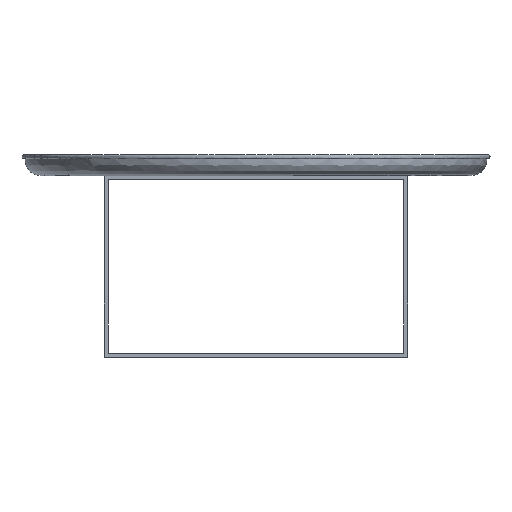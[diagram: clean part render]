
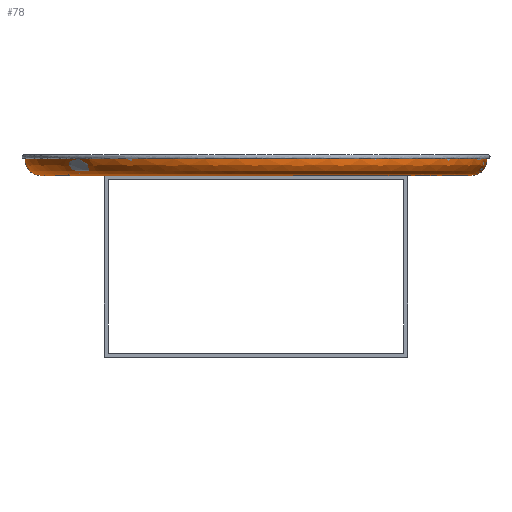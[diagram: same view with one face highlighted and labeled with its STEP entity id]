
A CAD part, front view. The second image highlights one B-rep face of the part: STEP entity #78.
In plain terms, the highlighted free-form (B-spline) face has degree [3, 2] with [10, 5] control points.
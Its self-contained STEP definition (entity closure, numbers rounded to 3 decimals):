
#11=(
BOUNDED_CURVE()
B_SPLINE_CURVE(3,(#1223,#1224,#1225,#1226,#1227,#1228,#1229,#1230,#1231,
#1232),.UNSPECIFIED.,.F.,.F.)
B_SPLINE_CURVE_WITH_KNOTS((4,3,3,4),(-540.388,-68.318,
-21.194,-19.128),.UNSPECIFIED.)
CURVE()
GEOMETRIC_REPRESENTATION_ITEM()
RATIONAL_B_SPLINE_CURVE((1.,1.,1.,1.,0.805,0.805,
1.,1.,1.,1.))
REPRESENTATION_ITEM('')
);
#15=(
BOUNDED_CURVE()
B_SPLINE_CURVE(2,(#1294,#1295,#1296,#1297,#1298),.UNSPECIFIED.,.F.,.F.)
B_SPLINE_CURVE_WITH_KNOTS((3,2,3),(475.495,713.243,950.99),
 .UNSPECIFIED.)
CURVE()
GEOMETRIC_REPRESENTATION_ITEM()
RATIONAL_B_SPLINE_CURVE((1.,0.707,1.,0.707,1.))
REPRESENTATION_ITEM('')
);
#16=(
BOUNDED_CURVE()
B_SPLINE_CURVE(3,(#1299,#1300,#1301,#1302,#1303,#1304,#1305,#1306,#1307,
#1308),.UNSPECIFIED.,.F.,.F.)
B_SPLINE_CURVE_WITH_KNOTS((4,3,3,4),(-540.388,-68.318,
-21.194,-19.128),.UNSPECIFIED.)
CURVE()
GEOMETRIC_REPRESENTATION_ITEM()
RATIONAL_B_SPLINE_CURVE((1.,1.,1.,1.,0.805,0.805,
1.,1.,1.,1.))
REPRESENTATION_ITEM('')
);
#20=(
BOUNDED_SURFACE()
B_SPLINE_SURFACE(3,2,((#1169,#1170,#1171,#1172,#1173),(#1174,#1175,#1176,
#1177,#1178),(#1179,#1180,#1181,#1182,#1183),(#1184,#1185,#1186,#1187,#1188),
(#1189,#1190,#1191,#1192,#1193),(#1194,#1195,#1196,#1197,#1198),(#1199,
#1200,#1201,#1202,#1203),(#1204,#1205,#1206,#1207,#1208),(#1209,#1210,#1211,
#1212,#1213),(#1214,#1215,#1216,#1217,#1218)),.UNSPECIFIED.,.F.,.F.,.F.)
B_SPLINE_SURFACE_WITH_KNOTS((4,3,3,4),(3,2,3),(-540.388,-68.318,
-21.194,-19.128),(475.495,713.243,
950.99),.UNSPECIFIED.)
GEOMETRIC_REPRESENTATION_ITEM()
RATIONAL_B_SPLINE_SURFACE(((1.,0.707,1.,0.707,1.),
(1.,0.707,1.,0.707,1.),(1.,0.707,1.,
0.707,1.),(1.,0.707,1.,0.707,1.),(0.805,
0.569,0.805,0.569,0.805),
(0.805,0.569,0.805,0.569,
0.805),(1.,0.707,1.,0.707,1.),(1.,0.707,
1.,0.707,1.),(1.,0.707,1.,0.707,1.),
(1.,0.707,1.,0.707,1.)))
REPRESENTATION_ITEM('')
SURFACE()
);
#78=ADVANCED_FACE('',(#118),#20,.T.);
#118=FACE_OUTER_BOUND('',#158,.T.);
#158=EDGE_LOOP('',(#312,#313,#314));
#312=ORIENTED_EDGE('',*,*,#392,.T.);
#313=ORIENTED_EDGE('',*,*,#391,.T.);
#314=ORIENTED_EDGE('',*,*,#387,.F.);
#387=EDGE_CURVE('',#505,#507,#11,.T.);
#391=EDGE_CURVE('',#508,#507,#15,.T.);
#392=EDGE_CURVE('',#505,#508,#16,.T.);
#505=VERTEX_POINT('',#1219);
#507=VERTEX_POINT('',#1221);
#508=VERTEX_POINT('',#1222);
#1169=CARTESIAN_POINT('',(4446.5,4071.01,349.8));
#1170=CARTESIAN_POINT('',(4446.5,4071.01,349.8));
#1171=CARTESIAN_POINT('',(4446.5,4071.01,349.8));
#1172=CARTESIAN_POINT('',(4446.5,4071.01,349.8));
#1173=CARTESIAN_POINT('',(4446.5,4071.01,349.8));
#1174=CARTESIAN_POINT('',(4584.667,4071.01,349.8));
#1175=CARTESIAN_POINT('',(4584.667,3932.843,349.8));
#1176=CARTESIAN_POINT('',(4446.5,3932.843,349.8));
#1177=CARTESIAN_POINT('',(4308.333,3932.843,349.8));
#1178=CARTESIAN_POINT('',(4308.333,4071.01,349.8));
#1179=CARTESIAN_POINT('',(4722.833,4071.01,349.8));
#1180=CARTESIAN_POINT('',(4722.833,3794.677,349.8));
#1181=CARTESIAN_POINT('',(4446.5,3794.677,349.8));
#1182=CARTESIAN_POINT('',(4170.167,3794.677,349.8));
#1183=CARTESIAN_POINT('',(4170.167,4071.01,349.8));
#1184=CARTESIAN_POINT('',(4861.,4071.01,349.8));
#1185=CARTESIAN_POINT('',(4861.,3656.51,349.8));
#1186=CARTESIAN_POINT('',(4446.5,3656.51,349.8));
#1187=CARTESIAN_POINT('',(4032.,3656.51,349.8));
#1188=CARTESIAN_POINT('',(4032.,4071.01,349.8));
#1189=CARTESIAN_POINT('',(4878.574,4071.01,349.8));
#1190=CARTESIAN_POINT('',(4878.574,3638.936,349.8));
#1191=CARTESIAN_POINT('',(4446.5,3638.936,349.8));
#1192=CARTESIAN_POINT('',(4014.426,3638.936,349.8));
#1193=CARTESIAN_POINT('',(4014.426,4071.01,349.8));
#1194=CARTESIAN_POINT('',(4891.,4071.01,362.226));
#1195=CARTESIAN_POINT('',(4891.,3626.51,362.226));
#1196=CARTESIAN_POINT('',(4446.5,3626.51,362.226));
#1197=CARTESIAN_POINT('',(4002.,3626.51,362.226));
#1198=CARTESIAN_POINT('',(4002.,4071.01,362.226));
#1199=CARTESIAN_POINT('',(4891.,4071.01,379.8));
#1200=CARTESIAN_POINT('',(4891.,3626.51,379.8));
#1201=CARTESIAN_POINT('',(4446.5,3626.51,379.8));
#1202=CARTESIAN_POINT('',(4002.,3626.51,379.8));
#1203=CARTESIAN_POINT('',(4002.,4071.01,379.8));
#1204=CARTESIAN_POINT('',(4891.,4071.01,380.489));
#1205=CARTESIAN_POINT('',(4891.,3626.51,380.489));
#1206=CARTESIAN_POINT('',(4446.5,3626.51,380.489));
#1207=CARTESIAN_POINT('',(4002.,3626.51,380.489));
#1208=CARTESIAN_POINT('',(4002.,4071.01,380.489));
#1209=CARTESIAN_POINT('',(4891.,4071.01,381.178));
#1210=CARTESIAN_POINT('',(4891.,3626.51,381.178));
#1211=CARTESIAN_POINT('',(4446.5,3626.51,381.178));
#1212=CARTESIAN_POINT('',(4002.,3626.51,381.178));
#1213=CARTESIAN_POINT('',(4002.,4071.01,381.178));
#1214=CARTESIAN_POINT('',(4891.,4071.01,381.867));
#1215=CARTESIAN_POINT('',(4891.,3626.51,381.867));
#1216=CARTESIAN_POINT('',(4446.5,3626.51,381.867));
#1217=CARTESIAN_POINT('',(4002.,3626.51,381.867));
#1218=CARTESIAN_POINT('',(4002.,4071.01,381.867));
#1219=CARTESIAN_POINT('',(4446.5,4071.01,349.8));
#1221=CARTESIAN_POINT('',(4002.,4071.01,381.867));
#1222=CARTESIAN_POINT('',(4891.,4071.01,381.867));
#1223=CARTESIAN_POINT('',(4446.5,4071.01,349.8));
#1224=CARTESIAN_POINT('',(4308.333,4071.01,349.8));
#1225=CARTESIAN_POINT('',(4170.167,4071.01,349.8));
#1226=CARTESIAN_POINT('',(4032.,4071.01,349.8));
#1227=CARTESIAN_POINT('',(4014.426,4071.01,349.8));
#1228=CARTESIAN_POINT('',(4002.,4071.01,362.226));
#1229=CARTESIAN_POINT('',(4002.,4071.01,379.8));
#1230=CARTESIAN_POINT('',(4002.,4071.01,380.489));
#1231=CARTESIAN_POINT('',(4002.,4071.01,381.178));
#1232=CARTESIAN_POINT('',(4002.,4071.01,381.867));
#1294=CARTESIAN_POINT('',(4891.,4071.01,381.867));
#1295=CARTESIAN_POINT('',(4891.,3626.51,381.867));
#1296=CARTESIAN_POINT('',(4446.5,3626.51,381.867));
#1297=CARTESIAN_POINT('',(4002.,3626.51,381.867));
#1298=CARTESIAN_POINT('',(4002.,4071.01,381.867));
#1299=CARTESIAN_POINT('',(4446.5,4071.01,349.8));
#1300=CARTESIAN_POINT('',(4584.667,4071.01,349.8));
#1301=CARTESIAN_POINT('',(4722.833,4071.01,349.8));
#1302=CARTESIAN_POINT('',(4861.,4071.01,349.8));
#1303=CARTESIAN_POINT('',(4878.574,4071.01,349.8));
#1304=CARTESIAN_POINT('',(4891.,4071.01,362.226));
#1305=CARTESIAN_POINT('',(4891.,4071.01,379.8));
#1306=CARTESIAN_POINT('',(4891.,4071.01,380.489));
#1307=CARTESIAN_POINT('',(4891.,4071.01,381.178));
#1308=CARTESIAN_POINT('',(4891.,4071.01,381.867));
